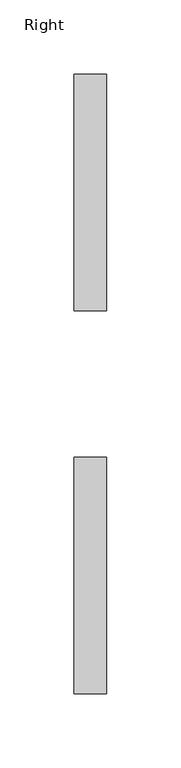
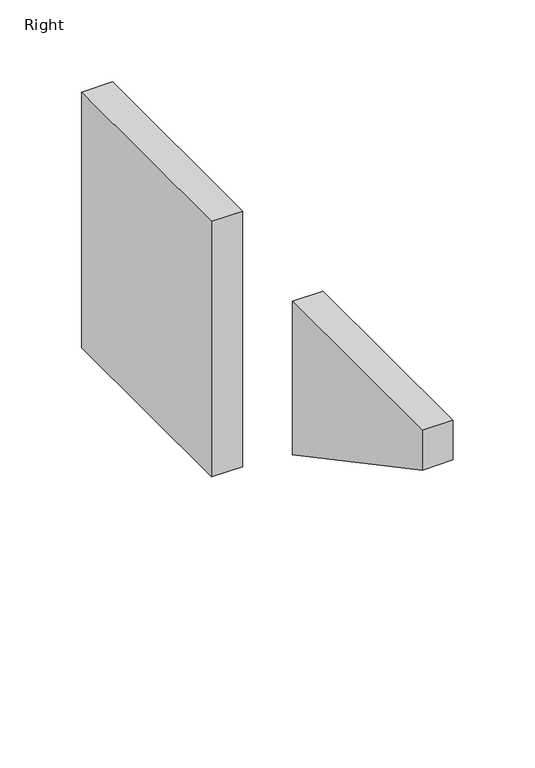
"""IFC4 building model written with IfcOpenShell, lengths in millimetres: furniture geometry, HermanMiller_Ethospace_E2834_SqEdgeCounterTopEndCapChangeOfHeight : Right."""

from ifc_helpers import new_model, si_unit, frame, origin, place, context, project, spatial, polyline, outline, extrude, source, transform, mapped, element, save


def right_d4cbb337(model_context):
    return source(origin(), model_context, "Body", "SweptSolid", [
        extrude(outline(polyline([(10.8148438, 207.9625), (10.8148438, 49.2125), (-10.8148437, 49.2125), (-10.8148437, 207.9625), (10.8148438, 207.9625)])), frame((0.0, 0.0, 889.0), z_axis=(0.0, 0.0, 1.0), x_axis=(1.0, 0.0, 0.0)), (0.0, 0.0, 1.0), 190.5),
        extrude(outline(polyline([(-207.9625, 1079.5), (-49.2124924, 1079.5), (-49.2124924, 965.2), (-207.9625, 1050.0360008), (-207.9625, 1079.5)])), frame((-10.8148437, 0.0, 0.0), z_axis=(1.0, 0.0, 0.0), x_axis=(0.0, 1.0, 0.0)), (0.0, 0.0, 1.0), 21.6296875),
    ])


if __name__ == "__main__":
    model = new_model("IFC4")
    model_context = context("Model", 3, world=origin())
    ifc_project = project(units=[si_unit("LENGTHUNIT", "METRE", prefix="MILLI")], contexts=[model_context])
    site = spatial("IfcSite", under=ifc_project)
    building = spatial("IfcBuilding", under=site)
    placement = place(None, origin())
    right_shape = right_d4cbb337(model_context)
    element("IfcFurniture", 1, ObjectType="HermanMiller_Ethospace_E2834_SqEdgeCounterTopEndCapChangeOfHeight : Right", at=placement, inside=building, context=model_context, shape_type="MappedRepresentation", body=[
        mapped(right_shape, transform((0.0, 0.0, 0.0), x_axis=(1.0, 0.0, 0.0), y_axis=(0.0, 1.0, 0.0), z_axis=(0.0, 0.0, 1.0))),
    ])
    save(model, "model.ifc")
